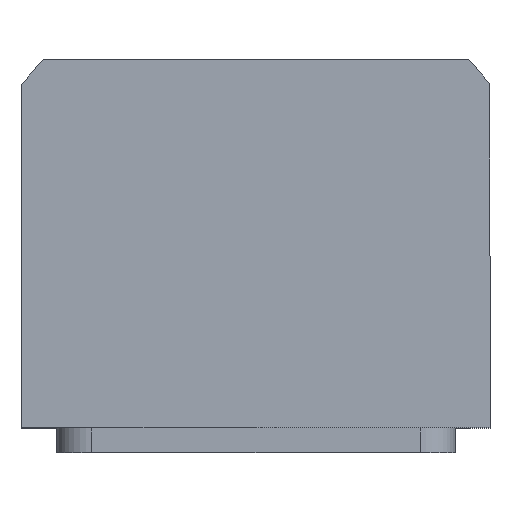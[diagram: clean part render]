
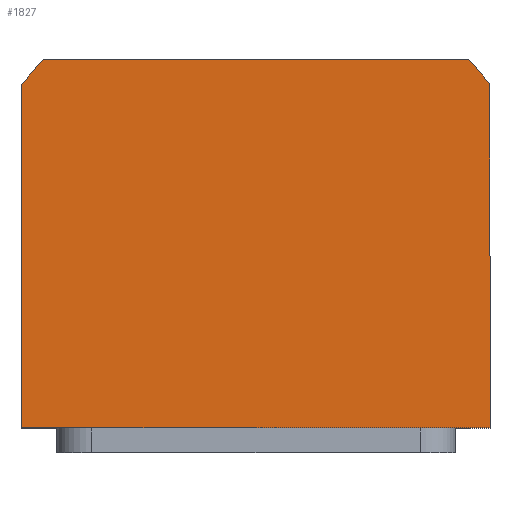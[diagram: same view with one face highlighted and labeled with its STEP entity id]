
A CAD part, top view. The second image highlights one B-rep face of the part: STEP entity #1827.
In plain terms, the highlighted planar face has unit normal (0, 0, 1).
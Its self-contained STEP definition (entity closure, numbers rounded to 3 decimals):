
#152 = VERTEX_POINT ( 'NONE', #9068 ) ;
#222 = EDGE_CURVE ( 'NONE', #10637, #12266, #13389, .T. ) ;
#501 = DIRECTION ( 'NONE',  ( 1., 0., 0. ) ) ;
#675 = EDGE_CURVE ( 'NONE', #152, #11381, #3906, .T. ) ;
#822 = AXIS2_PLACEMENT_3D ( 'NONE', #10870, #6287, #501 ) ;
#1352 = DIRECTION ( 'NONE',  ( 1., 0., 0. ) ) ;
#1396 = CARTESIAN_POINT ( 'NONE',  ( -42.688, 40., 40. ) ) ;
#1504 = VECTOR ( 'NONE', #2510, 1000. ) ;
#1509 = CARTESIAN_POINT ( 'NONE',  ( 47., 34.832, 40. ) ) ;
#1827 = ADVANCED_FACE ( 'NONE', ( #14648 ), #9892, .T. ) ;
#2036 = ORIENTED_EDGE ( 'NONE', *, *, #10397, .T. ) ;
#2510 = DIRECTION ( 'NONE',  ( 0., -1., 0. ) ) ;
#2567 = CARTESIAN_POINT ( 'NONE',  ( 0., 0., 40. ) ) ;
#3208 = EDGE_CURVE ( 'NONE', #11381, #10637, #12085, .T. ) ;
#3254 = DIRECTION ( 'NONE',  ( 1., 0., 0. ) ) ;
#3904 = VECTOR ( 'NONE', #3254, 1000. ) ;
#3906 = LINE ( 'NONE', #1509, #8294 ) ;
#4296 = VERTEX_POINT ( 'NONE', #12477 ) ;
#4377 = CARTESIAN_POINT ( 'NONE',  ( -42.688, 40., 40. ) ) ;
#4663 = ORIENTED_EDGE ( 'NONE', *, *, #4957, .T. ) ;
#4957 = EDGE_CURVE ( 'NONE', #4296, #10224, #4972, .T. ) ;
#4972 = LINE ( 'NONE', #13010, #1504 ) ;
#5148 = DIRECTION ( 'NONE',  ( -1., 0., 0. ) ) ;
#5199 = CARTESIAN_POINT ( 'NONE',  ( -47., -34., 40. ) ) ;
#5353 = LINE ( 'NONE', #13713, #3904 ) ;
#5517 = CIRCLE ( 'NONE', #7996, 58.5 ) ;
#5716 = EDGE_CURVE ( 'NONE', #12266, #4296, #5517, .T. ) ;
#6287 = DIRECTION ( 'NONE',  ( 0., 0., 1. ) ) ;
#6391 = EDGE_LOOP ( 'NONE', ( #2036, #7024, #11288, #10169, #11710, #4663 ) ) ;
#6477 = DIRECTION ( 'NONE',  ( 0., 0., 1. ) ) ;
#7024 = ORIENTED_EDGE ( 'NONE', *, *, #675, .T. ) ;
#7967 = CARTESIAN_POINT ( 'NONE',  ( 47., 34.832, 40. ) ) ;
#7996 = AXIS2_PLACEMENT_3D ( 'NONE', #13453, #6477, #13499 ) ;
#8294 = VECTOR ( 'NONE', #14314, 1000. ) ;
#9068 = CARTESIAN_POINT ( 'NONE',  ( 47., -34., 40. ) ) ;
#9892 = PLANE ( 'NONE',  #822 ) ;
#10104 = AXIS2_PLACEMENT_3D ( 'NONE', #2567, #11947, #1352 ) ;
#10169 = ORIENTED_EDGE ( 'NONE', *, *, #222, .T. ) ;
#10224 = VERTEX_POINT ( 'NONE', #5199 ) ;
#10397 = EDGE_CURVE ( 'NONE', #10224, #152, #5353, .T. ) ;
#10637 = VERTEX_POINT ( 'NONE', #13212 ) ;
#10870 = CARTESIAN_POINT ( 'NONE',  ( 0., 0., 40. ) ) ;
#11288 = ORIENTED_EDGE ( 'NONE', *, *, #3208, .T. ) ;
#11381 = VERTEX_POINT ( 'NONE', #7967 ) ;
#11710 = ORIENTED_EDGE ( 'NONE', *, *, #5716, .T. ) ;
#11746 = VECTOR ( 'NONE', #5148, 1000. ) ;
#11947 = DIRECTION ( 'NONE',  ( 0., 0., 1. ) ) ;
#12085 = CIRCLE ( 'NONE', #10104, 58.5 ) ;
#12266 = VERTEX_POINT ( 'NONE', #1396 ) ;
#12477 = CARTESIAN_POINT ( 'NONE',  ( -47., 34.832, 40. ) ) ;
#13010 = CARTESIAN_POINT ( 'NONE',  ( -47., -34., 40. ) ) ;
#13212 = CARTESIAN_POINT ( 'NONE',  ( 42.688, 40., 40. ) ) ;
#13389 = LINE ( 'NONE', #4377, #11746 ) ;
#13453 = CARTESIAN_POINT ( 'NONE',  ( 0., 0., 40. ) ) ;
#13499 = DIRECTION ( 'NONE',  ( 1., 0., 0. ) ) ;
#13713 = CARTESIAN_POINT ( 'NONE',  ( 47., -34., 40. ) ) ;
#14314 = DIRECTION ( 'NONE',  ( 0., 1., 0. ) ) ;
#14648 = FACE_OUTER_BOUND ( 'NONE', #6391, .T. ) ;
